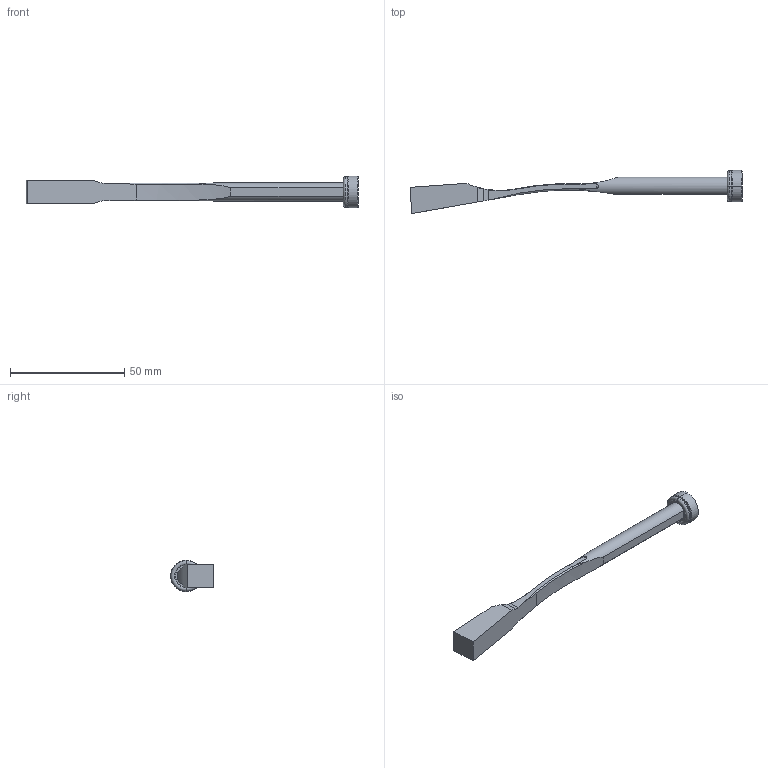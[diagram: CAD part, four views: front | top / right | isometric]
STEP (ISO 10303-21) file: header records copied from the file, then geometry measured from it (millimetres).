
FILE_DESCRIPTION (( 'STEP AP214' ), '1' );
FILE_NAME ('PW081025.STEP', '2020-02-10T08:44:29', ( '' ), ( '' ), 'SwSTEP 2.0', 'SolidWorks 2018', '' );
FILE_SCHEMA (( 'AUTOMOTIVE_DESIGN' ));
Length unit declared in the file: millimetre
Products named in the file (5): PW081025; 3JT9.5X2X13.5; 1DIN7984516_DIN 7984 - M5 x 16 --- 16C; 9FP1406M5; 9PW081025
Assembly tree (4 placements, depth 2):
  PW081025
    9PW081025
    9FP1406M5
    1DIN7984516_DIN 7984 - M5 x 16 --- 16C
    3JT9.5X2X13.5
Bounding box: 145.52 x 18.87 x 13.8 mm (x, y, z)
Volume: 7555.9 mm3; surface area: 5755 mm2
Topology: 4 solids, 4 shells, 95 faces, 218 edges, 130 vertices
Faces by surface type: plane 33, cylinder 22, cone 20, torus 16, bspline 4
Entity records: 3040 total; most frequent: CARTESIAN_POINT 638, DIRECTION 472, ORIENTED_EDGE 428, EDGE_CURVE 214, AXIS2_PLACEMENT_3D 192, VERTEX_POINT 130, EDGE_LOOP 102, FACE_OUTER_BOUND 95
